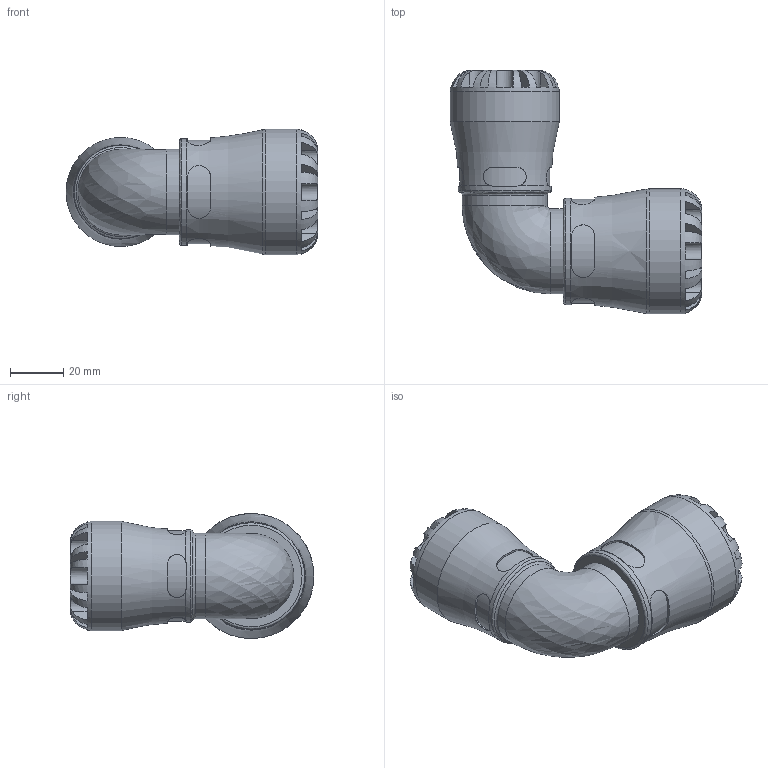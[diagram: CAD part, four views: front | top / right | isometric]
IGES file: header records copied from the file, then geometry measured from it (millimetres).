
Global section: file name: 105100025020_195100025020.ipt; native system: Autodesk Inventor 2015; preprocessor: unknown; author: KIM; date: 20170122.114733; units: millimetre
Bounding box: 94.5 x 91.5 x 47 mm (x, y, z)
Volume: 106896.7 mm3; surface area: 29968.3 mm2
Topology: 1 solids, 1 shells, 196 faces, 515 edges, 328 vertices
Faces by surface type: plane 118, revolution 48, cylinder 30
Full cylindrical faces by diameter (mm): 31.98 x2, 34.85 x1, 39.95 x1, 41 x1, 47 x1
